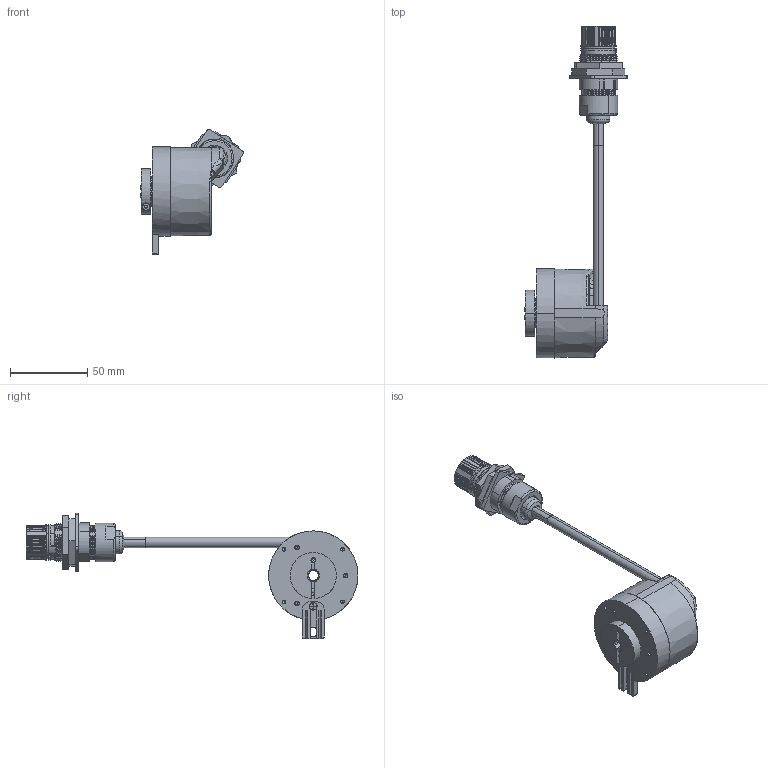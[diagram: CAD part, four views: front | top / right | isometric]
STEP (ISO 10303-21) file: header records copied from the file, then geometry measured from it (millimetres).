
FILE_DESCRIPTION (( 'STEP AP203' ), '1' );
FILE_NAME ('K58I.OXX.XXXXX.XH1151A.6XT14.XXXX.step', '2025-12-08T12:50:58', ( '' ), ( '' ), 'SwSTEP 2.0', 'SolidWorks 2021', '' );
FILE_SCHEMA (( 'CONFIG_CONTROL_DESIGN' ));
Length unit declared in the file: millimetre
Products named in the file (1): K58I.OXX.XXXXX.XH1151A.6XT14.XXXX
Bounding box: 66.6 x 215.45 x 81.2 mm (x, y, z)
Volume: 126360.1 mm3; surface area: 56422.3 mm2
Topology: 30 solids, 35 shells, 1774 faces, 4500 edges, 2865 vertices
Faces by surface type: cylinder 589, plane 540, cone 384, bspline 136, torus 84, sphere 41
Entity records: 62037 total; most frequent: CARTESIAN_POINT 20478, ORIENTED_EDGE 8902, DIRECTION 8417, EDGE_CURVE 4451, AXIS2_PLACEMENT_3D 3324, VERTEX_POINT 2865, EDGE_LOOP 1944, ADVANCED_FACE 1774
